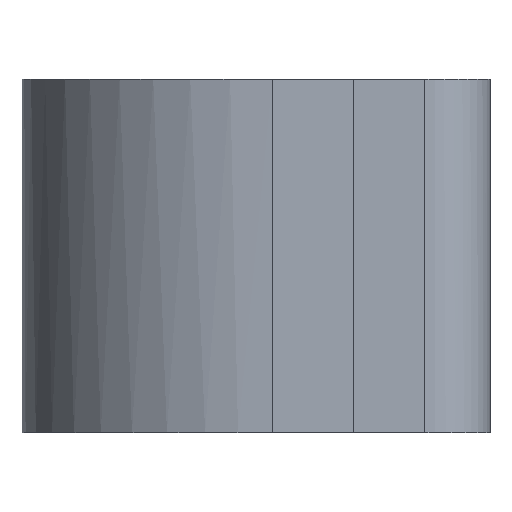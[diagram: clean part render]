
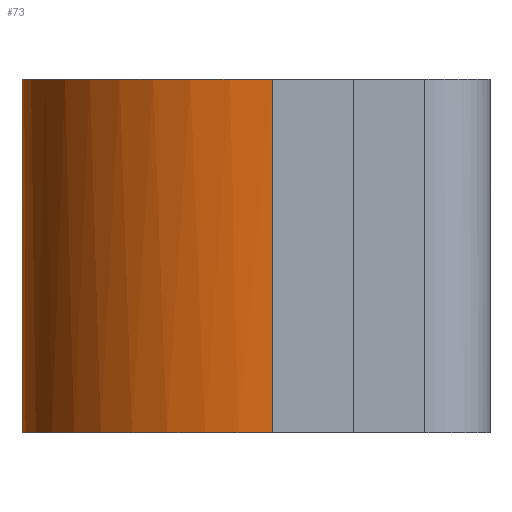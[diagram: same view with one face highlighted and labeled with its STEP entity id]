
A CAD part, left-side view. The second image highlights one B-rep face of the part: STEP entity #73.
In plain terms, the highlighted free-form (B-spline) face has degree [3, 1] with [4, 2] control points.
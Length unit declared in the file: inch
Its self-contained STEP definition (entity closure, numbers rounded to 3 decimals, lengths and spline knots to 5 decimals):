
#73=ADVANCED_FACE('',(#146),#147,.T.);
#146=FACE_OUTER_BOUND('',#257,.T.);
#147=B_SPLINE_SURFACE_WITH_KNOTS('',3,1,((#258,#259),(#260,#261),(#262,#263),(#264,#265)),.UNSPECIFIED.,.F.,.F.,.F.,(4,4),(2,2),(0.0,1.0),(0.0,0.8125),.UNSPECIFIED.);
#257=EDGE_LOOP('',(#412,#413,#414,#415));
#258=CARTESIAN_POINT('',(0.53766,0.76272,0.0));
#259=CARTESIAN_POINT('',(0.53766,0.76272,0.8125));
#260=CARTESIAN_POINT('',(0.22,0.76272,0.0));
#261=CARTESIAN_POINT('',(0.22,0.76272,0.8125));
#262=CARTESIAN_POINT('',(-0.03751,0.5052,0.0));
#263=CARTESIAN_POINT('',(-0.03751,0.5052,0.8125));
#264=CARTESIAN_POINT('',(-0.03751,0.18755,0.0));
#265=CARTESIAN_POINT('',(-0.03751,0.18755,0.8125));
#412=ORIENTED_EDGE('',*,*,#527,.T.);
#413=ORIENTED_EDGE('',*,*,#491,.F.);
#414=ORIENTED_EDGE('',*,*,#467,.T.);
#415=ORIENTED_EDGE('',*,*,#528,.T.);
#467=EDGE_CURVE('',#544,#541,#545,.T.);
#491=EDGE_CURVE('',#544,#582,#586,.T.);
#527=EDGE_CURVE('',#636,#582,#637,.T.);
#528=EDGE_CURVE('',#541,#636,#638,.T.);
#541=VERTEX_POINT('',#652);
#544=VERTEX_POINT('',#656);
#545=B_SPLINE_CURVE_WITH_KNOTS('',3,(#657,#658,#659,#660),.UNSPECIFIED.,.F.,.F.,(4,4),(0.0,1.0),.UNSPECIFIED.);
#582=VERTEX_POINT('',#727);
#586=LINE('',#735,#736);
#636=VERTEX_POINT('',#830);
#637=B_SPLINE_CURVE_WITH_KNOTS('',3,(#831,#832,#833,#834),.UNSPECIFIED.,.F.,.F.,(4,4),(-1.0,-0.0),.UNSPECIFIED.);
#638=LINE('',#835,#836);
#652=CARTESIAN_POINT('',(-0.03751,0.18755,0.0));
#656=CARTESIAN_POINT('',(0.53766,0.76272,0.0));
#657=CARTESIAN_POINT('',(0.53766,0.76272,0.0));
#658=CARTESIAN_POINT('',(0.22,0.76272,0.0));
#659=CARTESIAN_POINT('',(-0.03751,0.5052,0.0));
#660=CARTESIAN_POINT('',(-0.03751,0.18755,0.0));
#727=CARTESIAN_POINT('',(0.53766,0.76272,0.8125));
#735=CARTESIAN_POINT('',(0.53766,0.76272,0.0));
#736=VECTOR('',#870,1.0);
#830=CARTESIAN_POINT('',(-0.03751,0.18755,0.8125));
#831=CARTESIAN_POINT('',(-0.03751,0.18755,0.8125));
#832=CARTESIAN_POINT('',(-0.03751,0.5052,0.8125));
#833=CARTESIAN_POINT('',(0.22,0.76272,0.8125));
#834=CARTESIAN_POINT('',(0.53766,0.76272,0.8125));
#835=CARTESIAN_POINT('',(-0.03751,0.18755,0.0));
#836=VECTOR('',#885,1.0);
#870=DIRECTION('',(0.0,0.0,1.0));
#885=DIRECTION('',(0.0,0.0,1.0));
